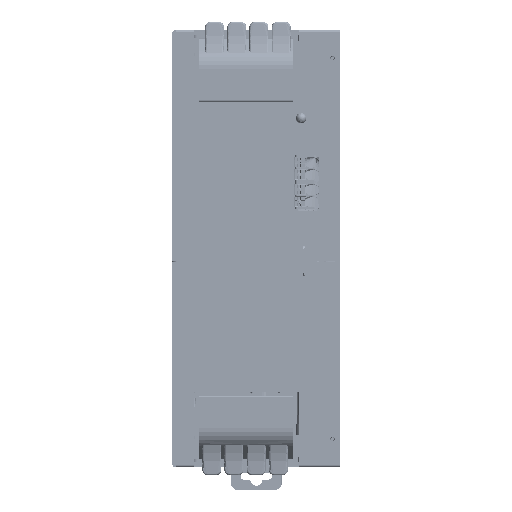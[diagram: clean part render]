
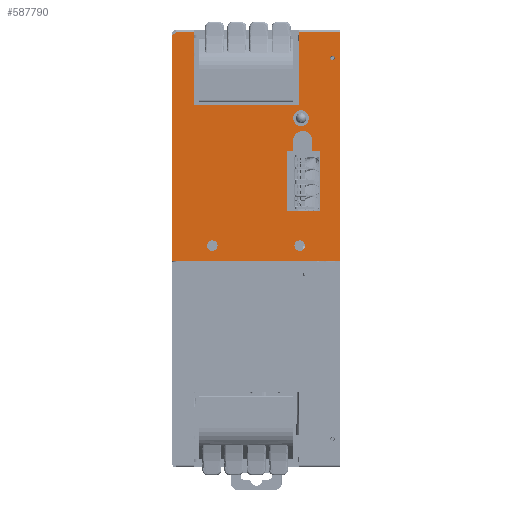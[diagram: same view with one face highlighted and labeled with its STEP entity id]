
A CAD part, left-side view. The second image highlights one B-rep face of the part: STEP entity #587790.
In plain terms, the highlighted planar face has unit normal (-1, 0, 0).
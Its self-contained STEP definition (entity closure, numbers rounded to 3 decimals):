
#583150=CARTESIAN_POINT('',(-36.647,70.686,
74.55));
#583160=VERTEX_POINT('',#583150);
#583190=CARTESIAN_POINT('',(-36.647,70.686,
74.3));
#583200=DIRECTION('',(0.,0.,1.));
#583210=VECTOR('',#583200,1.);
#583220=LINE('',#583190,#583210);
#583230=CARTESIAN_POINT('',(-36.647,70.686,
74.3));
#583240=VERTEX_POINT('',#583230);
#583250=EDGE_CURVE('',#583240,#583160,#583220,.T.);
#583640=CARTESIAN_POINT('',(-36.647,35.464,
74.55));
#583650=VERTEX_POINT('',#583640);
#583740=CARTESIAN_POINT('',(-36.647,23.686,
74.55));
#583750=VERTEX_POINT('',#583740);
#583780=CARTESIAN_POINT('',(-36.647,70.686,
74.55));
#583790=DIRECTION('',(0.,-1.,0.));
#583800=VECTOR('',#583790,1.);
#583810=LINE('',#583780,#583800);
#583820=EDGE_CURVE('',#583650,#583750,#583810,.T.);
#585040=CARTESIAN_POINT('',(-36.647,23.686,
9.2));
#585050=VERTEX_POINT('',#585040);
#585200=CARTESIAN_POINT('',(-36.647,71.686,
9.2));
#585210=VERTEX_POINT('',#585200);
#585240=CARTESIAN_POINT('',(-36.647,0.,9.2));
#585250=DIRECTION('',(0.,-1.,0.));
#585260=VECTOR('',#585250,1.);
#585270=LINE('',#585240,#585260);
#585280=EDGE_CURVE('',#585210,#585050,#585270,.T.);
#585950=CARTESIAN_POINT('',(-36.647,31.986,92.23
));
#585960=DIRECTION('',(-1.,0.,0.));
#585970=DIRECTION('',(0.,0.,1.));
#585980=AXIS2_PLACEMENT_3D('',#585950,#585960,#585970);
#585990=PLANE('',#585980);
#586000=CARTESIAN_POINT('',(-36.647,25.786,67.202
));
#586010=DIRECTION('',(1.,0.,0.));
#586020=DIRECTION('',(0.,1.,0.));
#586030=AXIS2_PLACEMENT_3D('',#586000,#586010,#586020);
#586040=CIRCLE('',#586030,0.662);
#586050=CARTESIAN_POINT('',(-36.647,26.449,
67.202));
#586060=VERTEX_POINT('',#586050);
#586070=CARTESIAN_POINT('',(-36.647,25.124,
67.202));
#586080=VERTEX_POINT('',#586070);
#586090=EDGE_CURVE('',#586060,#586080,#586040,.T.);
#586100=ORIENTED_EDGE('',*,*,#586090,.T.);
#586110=EDGE_CURVE('',#586080,#586060,#586040,.T.);
#586120=ORIENTED_EDGE('',*,*,#586110,.T.);
#586130=EDGE_LOOP('',(#586120,#586100));
#586140=FACE_BOUND('',#586130,.T.);
#586150=CARTESIAN_POINT('',(-36.647,34.799,
50.041));
#586160=DIRECTION('',(-1.,0.,0.));
#586170=DIRECTION('',(0.,1.,0.));
#586180=AXIS2_PLACEMENT_3D('',#586150,#586160,#586170);
#586190=CIRCLE('',#586180,2.25);
#586200=CARTESIAN_POINT('',(-36.647,37.049,
50.041));
#586210=VERTEX_POINT('',#586200);
#586220=CARTESIAN_POINT('',(-36.647,32.549,
50.041));
#586230=VERTEX_POINT('',#586220);
#586240=EDGE_CURVE('',#586210,#586230,#586190,.T.);
#586250=ORIENTED_EDGE('',*,*,#586240,.F.);
#586260=EDGE_CURVE('',#586230,#586210,#586190,.T.);
#586270=ORIENTED_EDGE('',*,*,#586260,.F.);
#586280=EDGE_LOOP('',(#586270,#586250));
#586290=FACE_BOUND('',#586280,.T.);
#586300=CARTESIAN_POINT('',(-36.647,35.186,13.55
));
#586310=DIRECTION('',(1.,0.,0.));
#586320=DIRECTION('',(0.,0.,-1.));
#586330=AXIS2_PLACEMENT_3D('',#586300,#586310,#586320);
#586340=CIRCLE('',#586330,1.5);
#586350=CARTESIAN_POINT('',(-36.647,35.186,15.05
));
#586360=VERTEX_POINT('',#586350);
#586370=CARTESIAN_POINT('',(-36.647,35.186,12.05
));
#586380=VERTEX_POINT('',#586370);
#586390=EDGE_CURVE('',#586360,#586380,#586340,.T.);
#586400=ORIENTED_EDGE('',*,*,#586390,.T.);
#586410=EDGE_CURVE('',#586380,#586360,#586340,.T.);
#586420=ORIENTED_EDGE('',*,*,#586410,.T.);
#586430=EDGE_LOOP('',(#586420,#586400));
#586440=FACE_BOUND('',#586430,.T.);
#586450=CARTESIAN_POINT('',(-36.647,60.186,13.55
));
#586460=DIRECTION('',(1.,0.,0.));
#586470=DIRECTION('',(0.,0.,-1.));
#586480=AXIS2_PLACEMENT_3D('',#586450,#586460,#586470);
#586490=CIRCLE('',#586480,1.5);
#586500=CARTESIAN_POINT('',(-36.647,60.186,15.05
));
#586510=VERTEX_POINT('',#586500);
#586520=CARTESIAN_POINT('',(-36.647,60.186,12.05
));
#586530=VERTEX_POINT('',#586520);
#586540=EDGE_CURVE('',#586510,#586530,#586490,.T.);
#586550=ORIENTED_EDGE('',*,*,#586540,.T.);
#586560=EDGE_CURVE('',#586530,#586510,#586490,.T.);
#586570=ORIENTED_EDGE('',*,*,#586560,.T.);
#586580=EDGE_LOOP('',(#586570,#586550));
#586590=FACE_BOUND('',#586580,.T.);
#586600=CARTESIAN_POINT('',(-36.647,34.286,
43.597));
#586610=DIRECTION('',(1.,0.,0.));
#586620=DIRECTION('',(0.,1.,0.));
#586630=AXIS2_PLACEMENT_3D('',#586600,#586610,#586620);
#586640=CIRCLE('',#586630,2.75);
#586650=CARTESIAN_POINT('',(-36.647,37.036,
43.597));
#586660=VERTEX_POINT('',#586650);
#586670=CARTESIAN_POINT('',(-36.647,31.536,
43.597));
#586680=VERTEX_POINT('',#586670);
#586690=EDGE_CURVE('',#586660,#586680,#586640,.T.);
#586700=ORIENTED_EDGE('',*,*,#586690,.T.);
#586710=CARTESIAN_POINT('',(-36.647,37.036,
42.885));
#586720=DIRECTION('',(0.,0.,-1.));
#586730=VECTOR('',#586720,1.);
#586740=LINE('',#586710,#586730);
#586750=CARTESIAN_POINT('',(-36.647,37.036,
40.508));
#586760=VERTEX_POINT('',#586750);
#586770=EDGE_CURVE('',#586660,#586760,#586740,.T.);
#586780=ORIENTED_EDGE('',*,*,#586770,.F.);
#586790=CARTESIAN_POINT('',(-36.647,36.29,
40.508));
#586800=DIRECTION('',(0.,1.,0.));
#586810=VECTOR('',#586800,1.);
#586820=LINE('',#586790,#586810);
#586830=CARTESIAN_POINT('',(-36.647,38.786,
40.508));
#586840=VERTEX_POINT('',#586830);
#586850=EDGE_CURVE('',#586760,#586840,#586820,.T.);
#586860=ORIENTED_EDGE('',*,*,#586850,.F.);
#586870=CARTESIAN_POINT('',(-36.647,38.786,
24.409));
#586880=DIRECTION('',(0.,0.,1.));
#586890=VECTOR('',#586880,1.);
#586900=LINE('',#586870,#586890);
#586910=CARTESIAN_POINT('',(-36.647,38.786,
23.509));
#586920=VERTEX_POINT('',#586910);
#586930=EDGE_CURVE('',#586920,#586840,#586900,.T.);
#586940=ORIENTED_EDGE('',*,*,#586930,.T.);
#586950=CARTESIAN_POINT('',(-36.647,29.786,
23.509));
#586960=DIRECTION('',(0.,1.,0.));
#586970=VECTOR('',#586960,1.);
#586980=LINE('',#586950,#586970);
#586990=CARTESIAN_POINT('',(-36.647,29.286,
23.509));
#587000=VERTEX_POINT('',#586990);
#587010=EDGE_CURVE('',#587000,#586920,#586980,.T.);
#587020=ORIENTED_EDGE('',*,*,#587010,.T.);
#587030=CARTESIAN_POINT('',(-36.647,29.286,
24.409));
#587040=DIRECTION('',(0.,0.,1.));
#587050=VECTOR('',#587040,1.);
#587060=LINE('',#587030,#587050);
#587070=CARTESIAN_POINT('',(-36.647,29.286,
40.508));
#587080=VERTEX_POINT('',#587070);
#587090=EDGE_CURVE('',#587000,#587080,#587060,.T.);
#587100=ORIENTED_EDGE('',*,*,#587090,.F.);
#587110=CARTESIAN_POINT('',(-36.647,29.786,
40.508));
#587120=DIRECTION('',(0.,1.,0.));
#587130=VECTOR('',#587120,1.);
#587140=LINE('',#587110,#587130);
#587150=CARTESIAN_POINT('',(-36.647,31.536,
40.508));
#587160=VERTEX_POINT('',#587150);
#587170=EDGE_CURVE('',#587080,#587160,#587140,.T.);
#587180=ORIENTED_EDGE('',*,*,#587170,.F.);
#587190=CARTESIAN_POINT('',(-36.647,31.536,
39.908));
#587200=DIRECTION('',(0.,0.,1.));
#587210=VECTOR('',#587200,1.);
#587220=LINE('',#587190,#587210);
#587230=EDGE_CURVE('',#587160,#586680,#587220,.T.);
#587240=ORIENTED_EDGE('',*,*,#587230,.F.);
#587250=EDGE_LOOP('',(#587240,#587180,#587100,#587020,#586940,#586860,
#586780,#586700));
#587260=FACE_BOUND('',#587250,.T.);
#587270=ORIENTED_EDGE('',*,*,#585280,.T.);
#587280=CARTESIAN_POINT('',(-36.647,71.686,
74.3));
#587290=DIRECTION('',(0.,0.,-1.));
#587300=VECTOR('',#587290,1.);
#587310=LINE('',#587280,#587300);
#587320=CARTESIAN_POINT('',(-36.647,71.686,
73.3));
#587330=VERTEX_POINT('',#587320);
#587340=EDGE_CURVE('',#587330,#585210,#587310,.T.);
#587350=ORIENTED_EDGE('',*,*,#587340,.T.);
#587360=CARTESIAN_POINT('',(-36.647,70.686,
73.3));
#587370=DIRECTION('',(1.,0.,0.));
#587380=DIRECTION('',(0.,-1.,0.));
#587390=AXIS2_PLACEMENT_3D('',#587360,#587370,#587380);
#587400=CIRCLE('',#587390,1.);
#587410=EDGE_CURVE('',#587330,#583240,#587400,.T.);
#587420=ORIENTED_EDGE('',*,*,#587410,.F.);
#587430=ORIENTED_EDGE('',*,*,#583250,.F.);
#587440=CARTESIAN_POINT('',(-36.647,65.364,
74.55));
#587450=VERTEX_POINT('',#587440);
#587460=EDGE_CURVE('',#583160,#587450,#583810,.T.);
#587470=ORIENTED_EDGE('',*,*,#587460,.F.);
#587480=CARTESIAN_POINT('',(-36.647,65.364,0.));
#587490=DIRECTION('',(0.,0.,-1.));
#587500=VECTOR('',#587490,1.);
#587510=LINE('',#587480,#587500);
#587520=CARTESIAN_POINT('',(-36.647,65.364,
53.75));
#587530=VERTEX_POINT('',#587520);
#587540=EDGE_CURVE('',#587450,#587530,#587510,.T.);
#587550=ORIENTED_EDGE('',*,*,#587540,.F.);
#587560=CARTESIAN_POINT('',(-36.647,0.,53.75));
#587570=DIRECTION('',(0.,1.,0.));
#587580=VECTOR('',#587570,1.);
#587590=LINE('',#587560,#587580);
#587600=CARTESIAN_POINT('',(-36.647,35.464,
53.75));
#587610=VERTEX_POINT('',#587600);
#587620=EDGE_CURVE('',#587610,#587530,#587590,.T.);
#587630=ORIENTED_EDGE('',*,*,#587620,.T.);
#587640=CARTESIAN_POINT('',(-36.647,35.464,0.));
#587650=DIRECTION('',(0.,0.,1.));
#587660=VECTOR('',#587650,1.);
#587670=LINE('',#587640,#587660);
#587680=EDGE_CURVE('',#587610,#583650,#587670,.T.);
#587690=ORIENTED_EDGE('',*,*,#587680,.F.);
#587700=ORIENTED_EDGE('',*,*,#583820,.F.);
#587710=CARTESIAN_POINT('',(-36.647,23.686,0.));
#587720=DIRECTION('',(0.,0.,1.));
#587730=VECTOR('',#587720,1.);
#587740=LINE('',#587710,#587730);
#587750=EDGE_CURVE('',#585050,#583750,#587740,.T.);
#587760=ORIENTED_EDGE('',*,*,#587750,.T.);
#587770=EDGE_LOOP('',(#587760,#587700,#587690,#587630,#587550,#587470,
#587430,#587420,#587350,#587270));
#587780=FACE_OUTER_BOUND('',#587770,.T.);
#587790=ADVANCED_FACE('',(#586140,#586290,#586440,#586590,#587260,
#587780),#585990,.T.);
